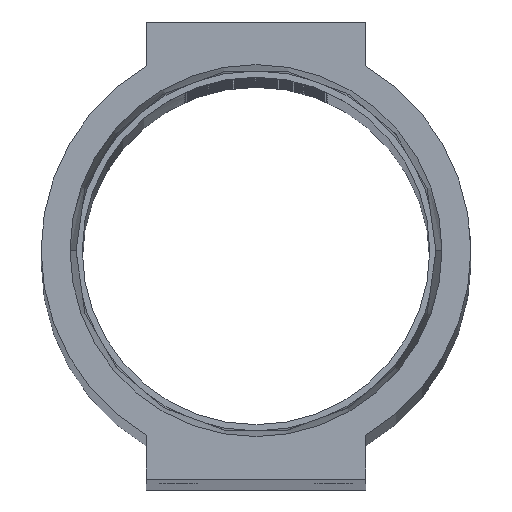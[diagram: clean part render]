
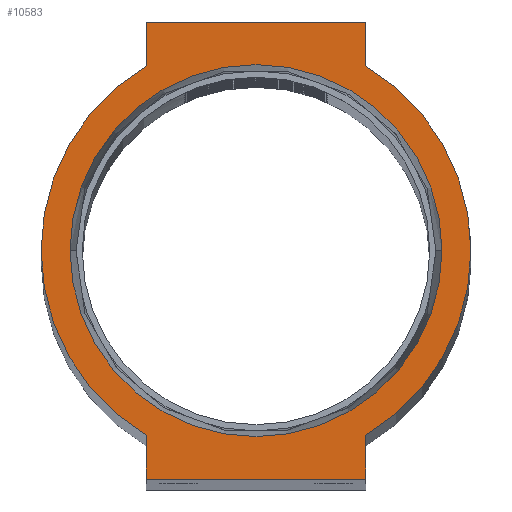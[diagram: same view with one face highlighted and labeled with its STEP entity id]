
A CAD part, top view. The second image highlights one B-rep face of the part: STEP entity #10583.
In plain terms, the highlighted planar face has unit normal (0, 0, 1).
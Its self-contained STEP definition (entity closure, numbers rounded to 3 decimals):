
#33 = AXIS2_PLACEMENT_3D ( 'NONE', #13803, #11311, #4620 ) ;
#117 = DIRECTION ( 'NONE',  ( 0., 0., 1. ) ) ;
#175 = ORIENTED_EDGE ( 'NONE', *, *, #4850, .T. ) ;
#397 = VERTEX_POINT ( 'NONE', #4816 ) ;
#923 = VERTEX_POINT ( 'NONE', #7884 ) ;
#935 = DIRECTION ( 'NONE',  ( 1., 0., 0. ) ) ;
#965 = CIRCLE ( 'NONE', #6319, 20.34 ) ;
#996 = EDGE_CURVE ( 'NONE', #4394, #12123, #14885, .T. ) ;
#1127 = DIRECTION ( 'NONE',  ( 0., -1., 0. ) ) ;
#1183 = CARTESIAN_POINT ( 'NONE',  ( 0., 0., 0. ) ) ;
#1246 = PLANE ( 'NONE',  #3536 ) ;
#1267 = CIRCLE ( 'NONE', #8278, 23.5 ) ;
#1392 = CARTESIAN_POINT ( 'NONE',  ( -12., 25., 0. ) ) ;
#1483 = VECTOR ( 'NONE', #7617, 1000. ) ;
#1616 = LINE ( 'NONE', #2970, #13302 ) ;
#2166 = EDGE_CURVE ( 'NONE', #4081, #3726, #965, .T. ) ;
#2172 = CARTESIAN_POINT ( 'NONE',  ( 0., 0., 0. ) ) ;
#2454 = EDGE_CURVE ( 'NONE', #12903, #923, #1616, .T. ) ;
#2455 = LINE ( 'NONE', #1392, #12874 ) ;
#2933 = CIRCLE ( 'NONE', #33, 23.5 ) ;
#2970 = CARTESIAN_POINT ( 'NONE',  ( 12., 25., 0. ) ) ;
#2971 = DIRECTION ( 'NONE',  ( 1., 0., 0. ) ) ;
#3296 = CARTESIAN_POINT ( 'NONE',  ( -20.34, 0., 0. ) ) ;
#3394 = DIRECTION ( 'NONE',  ( 0., 0., 1. ) ) ;
#3417 = CARTESIAN_POINT ( 'NONE',  ( 12., -25., 0. ) ) ;
#3461 = ORIENTED_EDGE ( 'NONE', *, *, #6364, .T. ) ;
#3500 = AXIS2_PLACEMENT_3D ( 'NONE', #1183, #117, #10623 ) ;
#3517 = CARTESIAN_POINT ( 'NONE',  ( -12., 25., 0. ) ) ;
#3536 = AXIS2_PLACEMENT_3D ( 'NONE', #10238, #4665, #935 ) ;
#3726 = VERTEX_POINT ( 'NONE', #10112 ) ;
#3736 = EDGE_CURVE ( 'NONE', #9360, #397, #2933, .T. ) ;
#3780 = CARTESIAN_POINT ( 'NONE',  ( 0., 0., 0. ) ) ;
#3785 = EDGE_CURVE ( 'NONE', #3726, #4081, #10658, .T. ) ;
#3934 = DIRECTION ( 'NONE',  ( 0., 0., 1. ) ) ;
#3997 = EDGE_CURVE ( 'NONE', #5083, #9360, #6475, .T. ) ;
#4025 = LINE ( 'NONE', #8611, #5494 ) ;
#4081 = VERTEX_POINT ( 'NONE', #3296 ) ;
#4108 = ORIENTED_EDGE ( 'NONE', *, *, #13222, .T. ) ;
#4306 = ORIENTED_EDGE ( 'NONE', *, *, #6427, .T. ) ;
#4394 = VERTEX_POINT ( 'NONE', #14108 ) ;
#4620 = DIRECTION ( 'NONE',  ( 1., 0., 0. ) ) ;
#4665 = DIRECTION ( 'NONE',  ( 0., 0., 1. ) ) ;
#4816 = CARTESIAN_POINT ( 'NONE',  ( 23.5, 0., 0. ) ) ;
#4850 = EDGE_CURVE ( 'NONE', #9903, #4394, #1267, .T. ) ;
#5083 = VERTEX_POINT ( 'NONE', #3417 ) ;
#5104 = LINE ( 'NONE', #8644, #5653 ) ;
#5494 = VECTOR ( 'NONE', #13213, 1000. ) ;
#5653 = VECTOR ( 'NONE', #13013, 1000. ) ;
#6234 = DIRECTION ( 'NONE',  ( 0., 1., 0. ) ) ;
#6319 = AXIS2_PLACEMENT_3D ( 'NONE', #3780, #3934, #8381 ) ;
#6364 = EDGE_CURVE ( 'NONE', #923, #7893, #2455, .T. ) ;
#6388 = CARTESIAN_POINT ( 'NONE',  ( 12., -25., 0. ) ) ;
#6427 = EDGE_CURVE ( 'NONE', #7893, #9903, #5104, .T. ) ;
#6475 = LINE ( 'NONE', #6388, #1483 ) ;
#7086 = DIRECTION ( 'NONE',  ( -1., 0., 0. ) ) ;
#7546 = AXIS2_PLACEMENT_3D ( 'NONE', #2172, #3394, #9144 ) ;
#7617 = DIRECTION ( 'NONE',  ( 0., 1., 0. ) ) ;
#7884 = CARTESIAN_POINT ( 'NONE',  ( 12., 25., 0. ) ) ;
#7893 = VERTEX_POINT ( 'NONE', #3517 ) ;
#8016 = ORIENTED_EDGE ( 'NONE', *, *, #3785, .F. ) ;
#8243 = ORIENTED_EDGE ( 'NONE', *, *, #2166, .F. ) ;
#8278 = AXIS2_PLACEMENT_3D ( 'NONE', #11885, #10977, #2971 ) ;
#8381 = DIRECTION ( 'NONE',  ( 1., 0., 0. ) ) ;
#8611 = CARTESIAN_POINT ( 'NONE',  ( -12., -25., 0. ) ) ;
#8644 = CARTESIAN_POINT ( 'NONE',  ( -12., 25., 0. ) ) ;
#8886 = EDGE_LOOP ( 'NONE', ( #8016, #8243 ) ) ;
#9144 = DIRECTION ( 'NONE',  ( 1., 0., 0. ) ) ;
#9360 = VERTEX_POINT ( 'NONE', #14087 ) ;
#9694 = ORIENTED_EDGE ( 'NONE', *, *, #3736, .T. ) ;
#9903 = VERTEX_POINT ( 'NONE', #13385 ) ;
#10112 = CARTESIAN_POINT ( 'NONE',  ( 20.34, 0., 0. ) ) ;
#10154 = FACE_BOUND ( 'NONE', #8886, .T. ) ;
#10238 = CARTESIAN_POINT ( 'NONE',  ( 0., 0., 0. ) ) ;
#10421 = CARTESIAN_POINT ( 'NONE',  ( 12., 20.205, 0. ) ) ;
#10583 = ADVANCED_FACE ( 'NONE', ( #10154, #12647 ), #1246, .T. ) ;
#10623 = DIRECTION ( 'NONE',  ( 1., 0., 0. ) ) ;
#10658 = CIRCLE ( 'NONE', #7546, 20.34 ) ;
#10937 = ORIENTED_EDGE ( 'NONE', *, *, #12013, .T. ) ;
#10977 = DIRECTION ( 'NONE',  ( 0., 0., 1. ) ) ;
#11311 = DIRECTION ( 'NONE',  ( 0., 0., 1. ) ) ;
#11796 = ORIENTED_EDGE ( 'NONE', *, *, #3997, .T. ) ;
#11885 = CARTESIAN_POINT ( 'NONE',  ( 0., 0., 0. ) ) ;
#11933 = CIRCLE ( 'NONE', #3500, 23.5 ) ;
#12013 = EDGE_CURVE ( 'NONE', #12123, #5083, #4025, .T. ) ;
#12123 = VERTEX_POINT ( 'NONE', #12519 ) ;
#12420 = ORIENTED_EDGE ( 'NONE', *, *, #2454, .T. ) ;
#12519 = CARTESIAN_POINT ( 'NONE',  ( -12., -25., 0. ) ) ;
#12647 = FACE_OUTER_BOUND ( 'NONE', #13723, .T. ) ;
#12679 = CARTESIAN_POINT ( 'NONE',  ( -12., -25., 0. ) ) ;
#12874 = VECTOR ( 'NONE', #7086, 1000. ) ;
#12903 = VERTEX_POINT ( 'NONE', #10421 ) ;
#13013 = DIRECTION ( 'NONE',  ( 0., -1., 0. ) ) ;
#13213 = DIRECTION ( 'NONE',  ( 1., 0., 0. ) ) ;
#13222 = EDGE_CURVE ( 'NONE', #397, #12903, #11933, .T. ) ;
#13302 = VECTOR ( 'NONE', #6234, 1000. ) ;
#13385 = CARTESIAN_POINT ( 'NONE',  ( -12., 20.205, 0. ) ) ;
#13723 = EDGE_LOOP ( 'NONE', ( #12420, #3461, #4306, #175, #14908, #10937, #11796, #9694, #4108 ) ) ;
#13803 = CARTESIAN_POINT ( 'NONE',  ( 0., 0., 0. ) ) ;
#14087 = CARTESIAN_POINT ( 'NONE',  ( 12., -20.205, 0. ) ) ;
#14108 = CARTESIAN_POINT ( 'NONE',  ( -12., -20.205, 0. ) ) ;
#14805 = VECTOR ( 'NONE', #1127, 1000. ) ;
#14885 = LINE ( 'NONE', #12679, #14805 ) ;
#14908 = ORIENTED_EDGE ( 'NONE', *, *, #996, .T. ) ;
